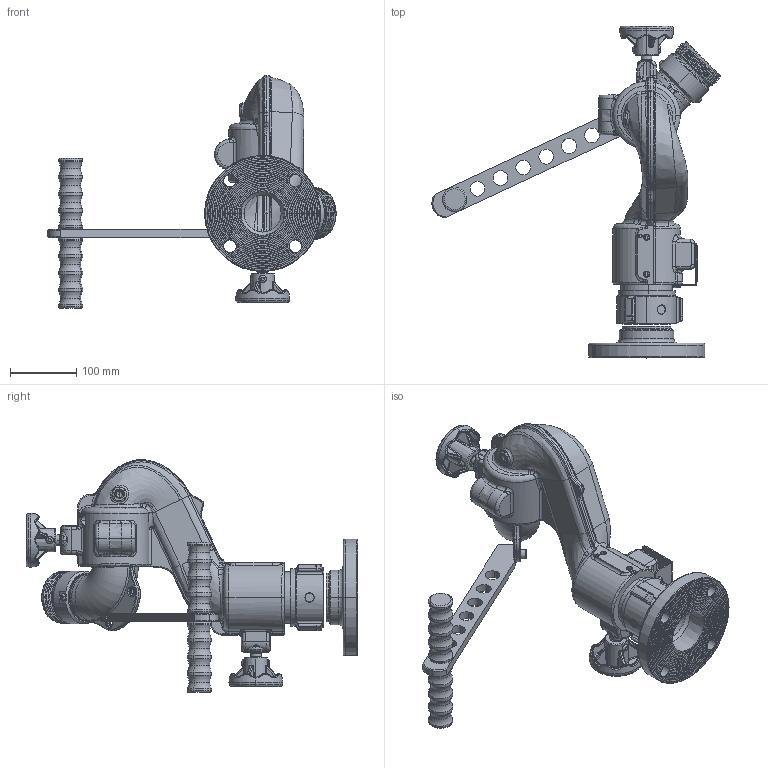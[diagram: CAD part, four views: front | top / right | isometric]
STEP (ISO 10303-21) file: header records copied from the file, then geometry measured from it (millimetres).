
FILE_DESCRIPTION (( 'STEP AP203' ), '1' );
FILE_NAME ('Y2-T61A.STEP', '2014-11-12T15:51:39', ( '' ), ( '' ), 'SwSTEP 2.0', 'SolidWorks 2014', '' );
FILE_SCHEMA (( 'CONFIG_CONTROL_DESIGN' ));
Length unit declared in the file: inch
Products named in the file (1): Y2-T61A
Bounding box: 434.91 x 500.45 x 350.81 mm (x, y, z)
Surface area: 460521.7 mm2 (no closed solid volume)
Topology: 0 solids, 43 shells, 1617 faces, 4487 edges, 2803 vertices
Faces by surface type: bspline 443, cylinder 396, torus 341, plane 268, cone 151, sphere 18
Entity records: 112469 total; most frequent: CARTESIAN_POINT 75515, ORIENTED_EDGE 7981, DIRECTION 7016, EDGE_CURVE 4470, AXIS2_PLACEMENT_3D 2902, VERTEX_POINT 2801, CIRCLE 1727, EDGE_LOOP 1701
